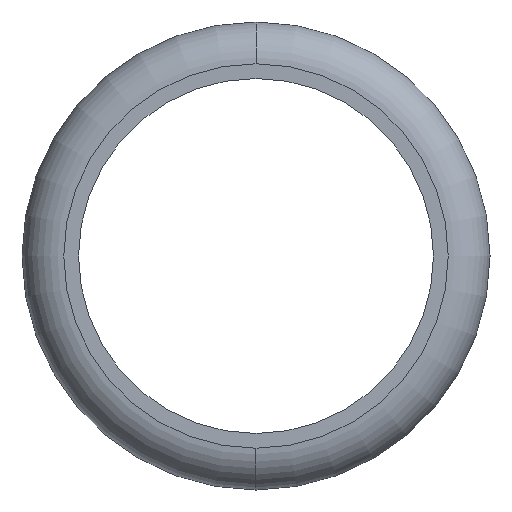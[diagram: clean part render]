
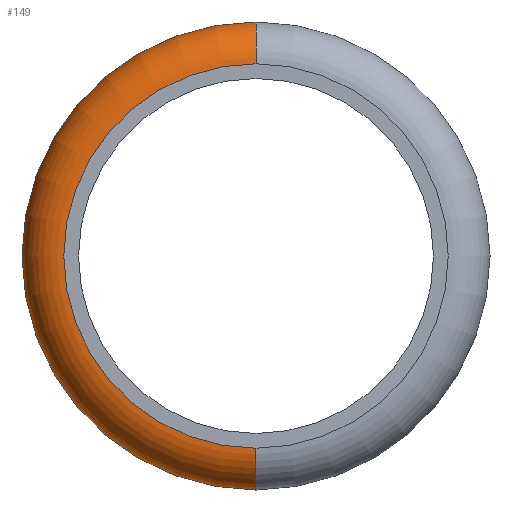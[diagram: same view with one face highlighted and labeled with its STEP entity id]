
A CAD part, left-side view. The second image highlights one B-rep face of the part: STEP entity #149.
In plain terms, the highlighted toroidal (fillet/blend) face has major radius 15.55 mm and minor radius 3.5 mm.
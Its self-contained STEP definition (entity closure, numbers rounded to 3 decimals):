
#149=ADVANCED_FACE('',(#334),#335,.T.);
#334=FACE_OUTER_BOUND('',#570,.T.);
#335=TOROIDAL_SURFACE('',#571,15.55,3.5);
#570=EDGE_LOOP('',(#935,#936,#937,#938));
#571=AXIS2_PLACEMENT_3D('',#939,#940,#941);
#935=ORIENTED_EDGE('',*,*,#1329,.T.);
#936=ORIENTED_EDGE('',*,*,#1395,.F.);
#937=ORIENTED_EDGE('',*,*,#1396,.F.);
#938=ORIENTED_EDGE('',*,*,#1397,.F.);
#939=CARTESIAN_POINT('',(9.,0.0,0.));
#940=DIRECTION('',(-1.0,0.0,0.));
#941=DIRECTION('',(0.,0.0,1.0));
#1329=EDGE_CURVE('',#1528,#1527,#1572,.T.);
#1395=EDGE_CURVE('',#1674,#1527,#1675,.T.);
#1396=EDGE_CURVE('',#1676,#1674,#1677,.T.);
#1397=EDGE_CURVE('',#1528,#1676,#1678,.T.);
#1527=VERTEX_POINT('',#1826);
#1528=VERTEX_POINT('',#1827);
#1572=CIRCLE('',#1871,19.05);
#1674=VERTEX_POINT('',#1987);
#1675=CIRCLE('',#1988,3.5);
#1676=VERTEX_POINT('',#1989);
#1677=CIRCLE('',#1990,15.55);
#1678=CIRCLE('',#1991,3.5);
#1826=CARTESIAN_POINT('',(9.,0.,-19.05));
#1827=CARTESIAN_POINT('',(9.,0.,19.05));
#1871=AXIS2_PLACEMENT_3D('',#2222,#2223,#2224);
#1987=CARTESIAN_POINT('',(5.5,0.,-15.55));
#1988=AXIS2_PLACEMENT_3D('',#2344,#2345,#2346);
#1989=CARTESIAN_POINT('',(5.5,0.,15.55));
#1990=AXIS2_PLACEMENT_3D('',#2347,#2348,#2349);
#1991=AXIS2_PLACEMENT_3D('',#2350,#2351,#2352);
#2222=CARTESIAN_POINT('',(9.,0.0,0.));
#2223=DIRECTION('',(-1.0,0.0,0.));
#2224=DIRECTION('',(0.,0.0,1.0));
#2344=CARTESIAN_POINT('',(9.,0.,-15.55));
#2345=DIRECTION('',(0.,-1.0,0.));
#2346=DIRECTION('',(0.,0.,-1.0));
#2347=CARTESIAN_POINT('',(5.5,0.0,0.));
#2348=DIRECTION('',(-1.0,0.0,0.));
#2349=DIRECTION('',(0.,0.0,-1.0));
#2350=CARTESIAN_POINT('',(9.,0.,15.55));
#2351=DIRECTION('',(0.,-1.0,0.));
#2352=DIRECTION('',(0.,0.,1.0));
